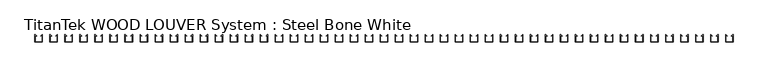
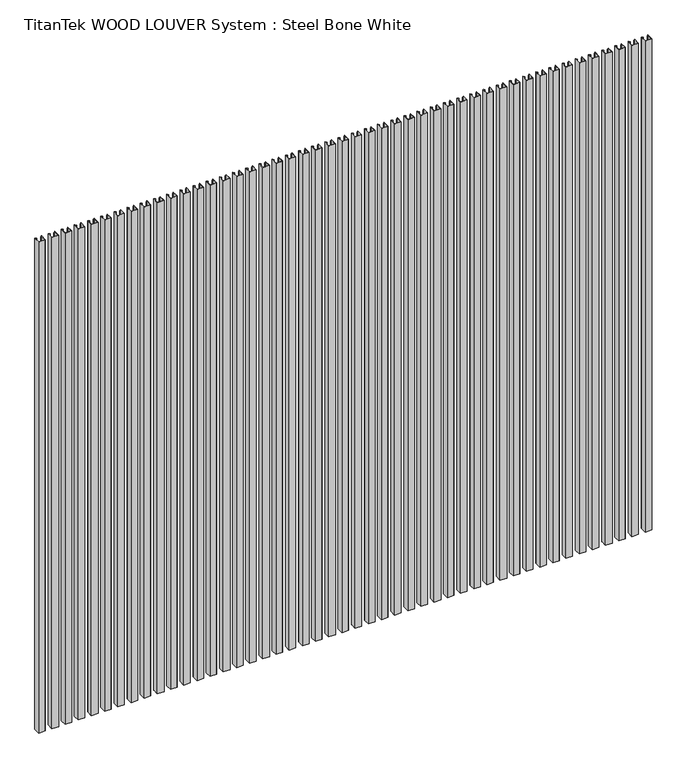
"""IFC4 building model written with IfcOpenShell, lengths in millimetres: proxy geometry, TitanTek WOOD LOUVER System : Steel Bone White."""

from ifc_helpers import new_model, si_unit, origin, origin_with_axes, place, context, project, spatial, polyline, outline, extrude, source, transform, mapped, element, save


def titantek_wood_louver_system_steel_bone_white_7c2ae0cb(model_context):
    return source(origin(), model_context, "Body", "SweptSolid", [
        extrude(outline(polyline([(4648.2, -50.8), (4648.2, 0.0), (4649.1921875, 0.0), (4659.1707019, -8.3729677), (4658.532936, -9.1330275), (4649.1921875, -1.2952088), (4649.1921875, -49.8078125), (4698.0078125, -49.8078125), (4698.0078125, -1.2952088), (4688.667064, -9.1330275), (4688.0292981, -8.3729677), (4698.0078125, 0.0), (4699.0, 0.0), (4699.0, -50.8), (4648.2, -50.8)])), origin_with_axes(), (0.0, 0.0, 1.0), 4000.0),
        extrude(outline(polyline([(4546.6, -50.8), (4546.6, 0.0), (4547.5921875, 0.0), (4557.5707019, -8.3729677), (4556.932936, -9.1330275), (4547.5921875, -1.2952088), (4547.5921875, -49.8078125), (4596.4078125, -49.8078125), (4596.4078125, -1.2952088), (4587.067064, -9.1330275), (4586.4292981, -8.3729677), (4596.4078125, 0.0), (4597.4, 0.0), (4597.4, -50.8), (4546.6, -50.8)])), origin_with_axes(), (0.0, 0.0, 1.0), 4000.0),
        extrude(outline(polyline([(4445.0, -50.8), (4445.0, 0.0), (4445.9921875, 0.0), (4455.9707019, -8.3729677), (4455.332936, -9.1330275), (4445.9921875, -1.2952088), (4445.9921875, -49.8078125), (4494.8078125, -49.8078125), (4494.8078125, -1.2952088), (4485.467064, -9.1330275), (4484.8292981, -8.3729677), (4494.8078125, 0.0), (4495.8, 0.0), (4495.8, -50.8), (4445.0, -50.8)])), origin_with_axes(), (0.0, 0.0, 1.0), 4000.0),
        extrude(outline(polyline([(4343.4, -50.8), (4343.4, 0.0), (4344.3921875, 0.0), (4354.3707019, -8.3729677), (4353.732936, -9.1330275), (4344.3921875, -1.2952088), (4344.3921875, -49.8078125), (4393.2078125, -49.8078125), (4393.2078125, -1.2952088), (4383.867064, -9.1330275), (4383.2292981, -8.3729677), (4393.2078125, 0.0), (4394.2, 0.0), (4394.2, -50.8), (4343.4, -50.8)])), origin_with_axes(), (0.0, 0.0, 1.0), 4000.0),
        extrude(outline(polyline([(4241.8, -50.8), (4241.8, 0.0), (4242.7921875, 0.0), (4252.7707019, -8.3729677), (4252.132936, -9.1330275), (4242.7921875, -1.2952088), (4242.7921875, -49.8078125), (4291.6078125, -49.8078125), (4291.6078125, -1.2952088), (4282.267064, -9.1330275), (4281.6292981, -8.3729677), (4291.6078125, 0.0), (4292.6, 0.0), (4292.6, -50.8), (4241.8, -50.8)])), origin_with_axes(), (0.0, 0.0, 1.0), 4000.0),
        extrude(outline(polyline([(4140.2, -50.8), (4140.2, 0.0), (4141.1921875, 0.0), (4151.1707019, -8.3729677), (4150.532936, -9.1330275), (4141.1921875, -1.2952088), (4141.1921875, -49.8078125), (4190.0078125, -49.8078125), (4190.0078125, -1.2952088), (4180.667064, -9.1330275), (4180.0292981, -8.3729677), (4190.0078125, 0.0), (4191.0, 0.0), (4191.0, -50.8), (4140.2, -50.8)])), origin_with_axes(), (0.0, 0.0, 1.0), 4000.0),
        extrude(outline(polyline([(4038.6, -50.8), (4038.6, 0.0), (4039.5921875, 0.0), (4049.5707019, -8.3729677), (4048.932936, -9.1330275), (4039.5921875, -1.2952088), (4039.5921875, -49.8078125), (4088.4078125, -49.8078125), (4088.4078125, -1.2952088), (4079.067064, -9.1330275), (4078.4292981, -8.3729677), (4088.4078125, 0.0), (4089.4, 0.0), (4089.4, -50.8), (4038.6, -50.8)])), origin_with_axes(), (0.0, 0.0, 1.0), 4000.0),
        extrude(outline(polyline([(3937.0, -50.8), (3937.0, 0.0), (3937.9921875, 0.0), (3947.9707019, -8.3729677), (3947.332936, -9.1330275), (3937.9921875, -1.2952088), (3937.9921875, -49.8078125), (3986.8078125, -49.8078125), (3986.8078125, -1.2952088), (3977.467064, -9.1330275), (3976.8292981, -8.3729677), (3986.8078125, 0.0), (3987.8, 0.0), (3987.8, -50.8), (3937.0, -50.8)])), origin_with_axes(), (0.0, 0.0, 1.0), 4000.0),
        extrude(outline(polyline([(3835.4, -50.8), (3835.4, 0.0), (3836.3921875, 0.0), (3846.3707019, -8.3729677), (3845.732936, -9.1330275), (3836.3921875, -1.2952088), (3836.3921875, -49.8078125), (3885.2078125, -49.8078125), (3885.2078125, -1.2952088), (3875.867064, -9.1330275), (3875.2292981, -8.3729677), (3885.2078125, 0.0), (3886.2, 0.0), (3886.2, -50.8), (3835.4, -50.8)])), origin_with_axes(), (0.0, 0.0, 1.0), 4000.0),
        extrude(outline(polyline([(3733.8, -50.8), (3733.8, 0.0), (3734.7921875, 0.0), (3744.7707019, -8.3729677), (3744.132936, -9.1330275), (3734.7921875, -1.2952088), (3734.7921875, -49.8078125), (3783.6078125, -49.8078125), (3783.6078125, -1.2952088), (3774.267064, -9.1330275), (3773.6292981, -8.3729677), (3783.6078125, 0.0), (3784.6, 0.0), (3784.6, -50.8), (3733.8, -50.8)])), origin_with_axes(), (0.0, 0.0, 1.0), 4000.0),
        extrude(outline(polyline([(3632.2, -50.8), (3632.2, 0.0), (3633.1921875, 0.0), (3643.1707019, -8.3729677), (3642.532936, -9.1330275), (3633.1921875, -1.2952088), (3633.1921875, -49.8078125), (3682.0078125, -49.8078125), (3682.0078125, -1.2952088), (3672.667064, -9.1330275), (3672.0292981, -8.3729677), (3682.0078125, 0.0), (3683.0, 0.0), (3683.0, -50.8), (3632.2, -50.8)])), origin_with_axes(), (0.0, 0.0, 1.0), 4000.0),
        extrude(outline(polyline([(3530.6, -50.8), (3530.6, 0.0), (3531.5921875, 0.0), (3541.5707019, -8.3729677), (3540.932936, -9.1330275), (3531.5921875, -1.2952088), (3531.5921875, -49.8078125), (3580.4078125, -49.8078125), (3580.4078125, -1.2952088), (3571.067064, -9.1330275), (3570.4292981, -8.3729677), (3580.4078125, 0.0), (3581.4, 0.0), (3581.4, -50.8), (3530.6, -50.8)])), origin_with_axes(), (0.0, 0.0, 1.0), 4000.0),
        extrude(outline(polyline([(3429.0, -50.8), (3429.0, 0.0), (3429.9921875, 0.0), (3439.9707019, -8.3729677), (3439.332936, -9.1330275), (3429.9921875, -1.2952088), (3429.9921875, -49.8078125), (3478.8078125, -49.8078125), (3478.8078125, -1.2952088), (3469.467064, -9.1330275), (3468.8292981, -8.3729677), (3478.8078125, 0.0), (3479.8, 0.0), (3479.8, -50.8), (3429.0, -50.8)])), origin_with_axes(), (0.0, 0.0, 1.0), 4000.0),
        extrude(outline(polyline([(3327.4, -50.8), (3327.4, 0.0), (3328.3921875, 0.0), (3338.3707019, -8.3729677), (3337.732936, -9.1330275), (3328.3921875, -1.2952088), (3328.3921875, -49.8078125), (3377.2078125, -49.8078125), (3377.2078125, -1.2952088), (3367.867064, -9.1330275), (3367.2292981, -8.3729677), (3377.2078125, 0.0), (3378.2, 0.0), (3378.2, -50.8), (3327.4, -50.8)])), origin_with_axes(), (0.0, 0.0, 1.0), 4000.0),
        extrude(outline(polyline([(3225.8, -50.8), (3225.8, 0.0), (3226.7921875, 0.0), (3236.7707019, -8.3729677), (3236.132936, -9.1330275), (3226.7921875, -1.2952088), (3226.7921875, -49.8078125), (3275.6078125, -49.8078125), (3275.6078125, -1.2952088), (3266.267064, -9.1330275), (3265.6292981, -8.3729677), (3275.6078125, 0.0), (3276.6, 0.0), (3276.6, -50.8), (3225.8, -50.8)])), origin_with_axes(), (0.0, 0.0, 1.0), 4000.0),
        extrude(outline(polyline([(3124.2, -50.8), (3124.2, 0.0), (3125.1921875, 0.0), (3135.1707019, -8.3729677), (3134.532936, -9.1330275), (3125.1921875, -1.2952088), (3125.1921875, -49.8078125), (3174.0078125, -49.8078125), (3174.0078125, -1.2952088), (3164.667064, -9.1330275), (3164.0292981, -8.3729677), (3174.0078125, 0.0), (3175.0, 0.0), (3175.0, -50.8), (3124.2, -50.8)])), origin_with_axes(), (0.0, 0.0, 1.0), 4000.0),
        extrude(outline(polyline([(3022.6, -50.8), (3022.6, 0.0), (3023.5921875, 0.0), (3033.5707019, -8.3729677), (3032.932936, -9.1330275), (3023.5921875, -1.2952088), (3023.5921875, -49.8078125), (3072.4078125, -49.8078125), (3072.4078125, -1.2952088), (3063.067064, -9.1330275), (3062.4292981, -8.3729677), (3072.4078125, 0.0), (3073.4, 0.0), (3073.4, -50.8), (3022.6, -50.8)])), origin_with_axes(), (0.0, 0.0, 1.0), 4000.0),
        extrude(outline(polyline([(2921.0, -50.8), (2921.0, 0.0), (2921.9921875, 0.0), (2931.9707019, -8.3729677), (2931.332936, -9.1330275), (2921.9921875, -1.2952088), (2921.9921875, -49.8078125), (2970.8078125, -49.8078125), (2970.8078125, -1.2952088), (2961.467064, -9.1330275), (2960.8292981, -8.3729677), (2970.8078125, 0.0), (2971.8, 0.0), (2971.8, -50.8), (2921.0, -50.8)])), origin_with_axes(), (0.0, 0.0, 1.0), 4000.0),
        extrude(outline(polyline([(2819.4, -50.8), (2819.4, 0.0), (2820.3921875, 0.0), (2830.3707019, -8.3729677), (2829.732936, -9.1330275), (2820.3921875, -1.2952088), (2820.3921875, -49.8078125), (2869.2078125, -49.8078125), (2869.2078125, -1.2952088), (2859.867064, -9.1330275), (2859.2292981, -8.3729677), (2869.2078125, 0.0), (2870.2, 0.0), (2870.2, -50.8), (2819.4, -50.8)])), origin_with_axes(), (0.0, 0.0, 1.0), 4000.0),
        extrude(outline(polyline([(2717.8, -50.8), (2717.8, 0.0), (2718.7921875, 0.0), (2728.7707019, -8.3729677), (2728.132936, -9.1330275), (2718.7921875, -1.2952088), (2718.7921875, -49.8078125), (2767.6078125, -49.8078125), (2767.6078125, -1.2952088), (2758.267064, -9.1330275), (2757.6292981, -8.3729677), (2767.6078125, 0.0), (2768.6, 0.0), (2768.6, -50.8), (2717.8, -50.8)])), origin_with_axes(), (0.0, 0.0, 1.0), 4000.0),
        extrude(outline(polyline([(2616.2, -50.8), (2616.2, 0.0), (2617.1921875, 0.0), (2627.1707019, -8.3729677), (2626.532936, -9.1330275), (2617.1921875, -1.2952088), (2617.1921875, -49.8078125), (2666.0078125, -49.8078125), (2666.0078125, -1.2952088), (2656.667064, -9.1330275), (2656.0292981, -8.3729677), (2666.0078125, 0.0), (2667.0, 0.0), (2667.0, -50.8), (2616.2, -50.8)])), origin_with_axes(), (0.0, 0.0, 1.0), 4000.0),
        extrude(outline(polyline([(2514.6, -50.8), (2514.6, 0.0), (2515.5921875, 0.0), (2525.5707019, -8.3729677), (2524.932936, -9.1330275), (2515.5921875, -1.2952088), (2515.5921875, -49.8078125), (2564.4078125, -49.8078125), (2564.4078125, -1.2952088), (2555.067064, -9.1330275), (2554.4292981, -8.3729677), (2564.4078125, 0.0), (2565.4, 0.0), (2565.4, -50.8), (2514.6, -50.8)])), origin_with_axes(), (0.0, 0.0, 1.0), 4000.0),
        extrude(outline(polyline([(2413.0, -50.8), (2413.0, 0.0), (2413.9921875, 0.0), (2423.9707019, -8.3729677), (2423.332936, -9.1330275), (2413.9921875, -1.2952088), (2413.9921875, -49.8078125), (2462.8078125, -49.8078125), (2462.8078125, -1.2952088), (2453.467064, -9.1330275), (2452.8292981, -8.3729677), (2462.8078125, 0.0), (2463.8, 0.0), (2463.8, -50.8), (2413.0, -50.8)])), origin_with_axes(), (0.0, 0.0, 1.0), 4000.0),
        extrude(outline(polyline([(2311.4, -50.8), (2311.4, 0.0), (2312.3921875, 0.0), (2322.3707019, -8.3729677), (2321.732936, -9.1330275), (2312.3921875, -1.2952088), (2312.3921875, -49.8078125), (2361.2078125, -49.8078125), (2361.2078125, -1.2952088), (2351.867064, -9.1330275), (2351.2292981, -8.3729677), (2361.2078125, 0.0), (2362.2, 0.0), (2362.2, -50.8), (2311.4, -50.8)])), origin_with_axes(), (0.0, 0.0, 1.0), 4000.0),
        extrude(outline(polyline([(2209.8, -50.8), (2209.8, 0.0), (2210.7921875, 0.0), (2220.7707019, -8.3729677), (2220.132936, -9.1330275), (2210.7921875, -1.2952088), (2210.7921875, -49.8078125), (2259.6078125, -49.8078125), (2259.6078125, -1.2952088), (2250.267064, -9.1330275), (2249.6292981, -8.3729677), (2259.6078125, 0.0), (2260.6, 0.0), (2260.6, -50.8), (2209.8, -50.8)])), origin_with_axes(), (0.0, 0.0, 1.0), 4000.0),
        extrude(outline(polyline([(2108.2, -50.8), (2108.2, 0.0), (2109.1921875, 0.0), (2119.1707019, -8.3729677), (2118.532936, -9.1330275), (2109.1921875, -1.2952088), (2109.1921875, -49.8078125), (2158.0078125, -49.8078125), (2158.0078125, -1.2952088), (2148.667064, -9.1330275), (2148.0292981, -8.3729677), (2158.0078125, 0.0), (2159.0, 0.0), (2159.0, -50.8), (2108.2, -50.8)])), origin_with_axes(), (0.0, 0.0, 1.0), 4000.0),
        extrude(outline(polyline([(2006.6, -50.8), (2006.6, 0.0), (2007.5921875, 0.0), (2017.5707019, -8.3729677), (2016.932936, -9.1330275), (2007.5921875, -1.2952088), (2007.5921875, -49.8078125), (2056.4078125, -49.8078125), (2056.4078125, -1.2952088), (2047.067064, -9.1330275), (2046.4292981, -8.3729677), (2056.4078125, 0.0), (2057.4, 0.0), (2057.4, -50.8), (2006.6, -50.8)])), origin_with_axes(), (0.0, 0.0, 1.0), 4000.0),
        extrude(outline(polyline([(1905.0, -50.8), (1905.0, 0.0), (1905.9921875, 0.0), (1915.9707019, -8.3729677), (1915.332936, -9.1330275), (1905.9921875, -1.2952088), (1905.9921875, -49.8078125), (1954.8078125, -49.8078125), (1954.8078125, -1.2952088), (1945.467064, -9.1330275), (1944.8292981, -8.3729677), (1954.8078125, 0.0), (1955.8, 0.0), (1955.8, -50.8), (1905.0, -50.8)])), origin_with_axes(), (0.0, 0.0, 1.0), 4000.0),
        extrude(outline(polyline([(1803.4, -50.8), (1803.4, 0.0), (1804.3921875, 0.0), (1814.3707019, -8.3729677), (1813.732936, -9.1330275), (1804.3921875, -1.2952088), (1804.3921875, -49.8078125), (1853.2078125, -49.8078125), (1853.2078125, -1.2952088), (1843.867064, -9.1330275), (1843.2292981, -8.3729677), (1853.2078125, 0.0), (1854.2, 0.0), (1854.2, -50.8), (1803.4, -50.8)])), origin_with_axes(), (0.0, 0.0, 1.0), 4000.0),
        extrude(outline(polyline([(1701.8, -50.8), (1701.8, 0.0), (1702.7921875, 0.0), (1712.7707019, -8.3729677), (1712.132936, -9.1330275), (1702.7921875, -1.2952088), (1702.7921875, -49.8078125), (1751.6078125, -49.8078125), (1751.6078125, -1.2952088), (1742.267064, -9.1330275), (1741.6292981, -8.3729677), (1751.6078125, 0.0), (1752.6, 0.0), (1752.6, -50.8), (1701.8, -50.8)])), origin_with_axes(), (0.0, 0.0, 1.0), 4000.0),
        extrude(outline(polyline([(1600.2, -50.8), (1600.2, 0.0), (1601.1921875, 0.0), (1611.1707019, -8.3729677), (1610.532936, -9.1330275), (1601.1921875, -1.2952088), (1601.1921875, -49.8078125), (1650.0078125, -49.8078125), (1650.0078125, -1.2952088), (1640.667064, -9.1330275), (1640.0292981, -8.3729677), (1650.0078125, 0.0), (1651.0, 0.0), (1651.0, -50.8), (1600.2, -50.8)])), origin_with_axes(), (0.0, 0.0, 1.0), 4000.0),
        extrude(outline(polyline([(1498.6, -50.8), (1498.6, 0.0), (1499.5921875, 0.0), (1509.5707019, -8.3729677), (1508.932936, -9.1330275), (1499.5921875, -1.2952088), (1499.5921875, -49.8078125), (1548.4078125, -49.8078125), (1548.4078125, -1.2952088), (1539.067064, -9.1330275), (1538.4292981, -8.3729677), (1548.4078125, 0.0), (1549.4, 0.0), (1549.4, -50.8), (1498.6, -50.8)])), origin_with_axes(), (0.0, 0.0, 1.0), 4000.0),
        extrude(outline(polyline([(1397.0, -50.8), (1397.0, 0.0), (1397.9921875, 0.0), (1407.9707019, -8.3729677), (1407.332936, -9.1330275), (1397.9921875, -1.2952088), (1397.9921875, -49.8078125), (1446.8078125, -49.8078125), (1446.8078125, -1.2952088), (1437.467064, -9.1330275), (1436.8292981, -8.3729677), (1446.8078125, 0.0), (1447.8, 0.0), (1447.8, -50.8), (1397.0, -50.8)])), origin_with_axes(), (0.0, 0.0, 1.0), 4000.0),
        extrude(outline(polyline([(1295.4, -50.8), (1295.4, 0.0), (1296.3921875, 0.0), (1306.3707019, -8.3729677), (1305.732936, -9.1330275), (1296.3921875, -1.2952088), (1296.3921875, -49.8078125), (1345.2078125, -49.8078125), (1345.2078125, -1.2952088), (1335.867064, -9.1330275), (1335.2292981, -8.3729677), (1345.2078125, 0.0), (1346.2, 0.0), (1346.2, -50.8), (1295.4, -50.8)])), origin_with_axes(), (0.0, 0.0, 1.0), 4000.0),
        extrude(outline(polyline([(1193.8, -50.8), (1193.8, 0.0), (1194.7921875, 0.0), (1204.7707019, -8.3729677), (1204.132936, -9.1330275), (1194.7921875, -1.2952088), (1194.7921875, -49.8078125), (1243.6078125, -49.8078125), (1243.6078125, -1.2952088), (1234.267064, -9.1330275), (1233.6292981, -8.3729677), (1243.6078125, 0.0), (1244.6, 0.0), (1244.6, -50.8), (1193.8, -50.8)])), origin_with_axes(), (0.0, 0.0, 1.0), 4000.0),
        extrude(outline(polyline([(1092.2, -50.8), (1092.2, 0.0), (1093.1921875, 0.0), (1103.1707019, -8.3729677), (1102.532936, -9.1330275), (1093.1921875, -1.2952088), (1093.1921875, -49.8078125), (1142.0078125, -49.8078125), (1142.0078125, -1.2952088), (1132.667064, -9.1330275), (1132.0292981, -8.3729677), (1142.0078125, 0.0), (1143.0, 0.0), (1143.0, -50.8), (1092.2, -50.8)])), origin_with_axes(), (0.0, 0.0, 1.0), 4000.0),
        extrude(outline(polyline([(990.6, -50.8), (990.6, 0.0), (991.5921875, 0.0), (1001.5707019, -8.3729677), (1000.932936, -9.1330275), (991.5921875, -1.2952088), (991.5921875, -49.8078125), (1040.4078125, -49.8078125), (1040.4078125, -1.2952088), (1031.067064, -9.1330275), (1030.4292981, -8.3729677), (1040.4078125, 0.0), (1041.4, 0.0), (1041.4, -50.8), (990.6, -50.8)])), origin_with_axes(), (0.0, 0.0, 1.0), 4000.0),
        extrude(outline(polyline([(889.0, -50.8), (889.0, 0.0), (889.9921875, 0.0), (899.9707019, -8.3729677), (899.332936, -9.1330275), (889.9921875, -1.2952088), (889.9921875, -49.8078125), (938.8078125, -49.8078125), (938.8078125, -1.2952088), (929.467064, -9.1330275), (928.8292981, -8.3729677), (938.8078125, 0.0), (939.8, 0.0), (939.8, -50.8), (889.0, -50.8)])), origin_with_axes(), (0.0, 0.0, 1.0), 4000.0),
        extrude(outline(polyline([(787.4, -50.8), (787.4, 0.0), (788.3921875, 0.0), (798.3707019, -8.3729677), (797.732936, -9.1330275), (788.3921875, -1.2952088), (788.3921875, -49.8078125), (837.2078125, -49.8078125), (837.2078125, -1.2952088), (827.867064, -9.1330275), (827.2292981, -8.3729677), (837.2078125, 0.0), (838.2, 0.0), (838.2, -50.8), (787.4, -50.8)])), origin_with_axes(), (0.0, 0.0, 1.0), 4000.0),
        extrude(outline(polyline([(685.8, -50.8), (685.8, 0.0), (686.7921875, 0.0), (696.7707019, -8.3729677), (696.132936, -9.1330275), (686.7921875, -1.2952088), (686.7921875, -49.8078125), (735.6078125, -49.8078125), (735.6078125, -1.2952088), (726.267064, -9.1330275), (725.6292981, -8.3729677), (735.6078125, 0.0), (736.6, 0.0), (736.6, -50.8), (685.8, -50.8)])), origin_with_axes(), (0.0, 0.0, 1.0), 4000.0),
        extrude(outline(polyline([(584.2, -50.8), (584.2, 0.0), (585.1921875, 0.0), (595.1707019, -8.3729677), (594.532936, -9.1330275), (585.1921875, -1.2952088), (585.1921875, -49.8078125), (634.0078125, -49.8078125), (634.0078125, -1.2952088), (624.667064, -9.1330275), (624.0292981, -8.3729677), (634.0078125, 0.0), (635.0, 0.0), (635.0, -50.8), (584.2, -50.8)])), origin_with_axes(), (0.0, 0.0, 1.0), 4000.0),
        extrude(outline(polyline([(482.6, -50.8), (482.6, 0.0), (483.5921875, 0.0), (493.5707019, -8.3729677), (492.932936, -9.1330275), (483.5921875, -1.2952088), (483.5921875, -49.8078125), (532.4078125, -49.8078125), (532.4078125, -1.2952088), (523.067064, -9.1330275), (522.4292981, -8.3729677), (532.4078125, 0.0), (533.4, 0.0), (533.4, -50.8), (482.6, -50.8)])), origin_with_axes(), (0.0, 0.0, 1.0), 4000.0),
        extrude(outline(polyline([(381.0, -50.8), (381.0, 0.0), (381.9921875, 0.0), (391.9707019, -8.3729677), (391.332936, -9.1330275), (381.9921875, -1.2952088), (381.9921875, -49.8078125), (430.8078125, -49.8078125), (430.8078125, -1.2952088), (421.467064, -9.1330275), (420.8292981, -8.3729677), (430.8078125, 0.0), (431.8, 0.0), (431.8, -50.8), (381.0, -50.8)])), origin_with_axes(), (0.0, 0.0, 1.0), 4000.0),
        extrude(outline(polyline([(279.4, -50.8), (279.4, 0.0), (280.3921875, 0.0), (290.3707019, -8.3729677), (289.732936, -9.1330275), (280.3921875, -1.2952088), (280.3921875, -49.8078125), (329.2078125, -49.8078125), (329.2078125, -1.2952088), (319.867064, -9.1330275), (319.2292981, -8.3729677), (329.2078125, 0.0), (330.2, 0.0), (330.2, -50.8), (279.4, -50.8)])), origin_with_axes(), (0.0, 0.0, 1.0), 4000.0),
        extrude(outline(polyline([(177.8, -50.8), (177.8, 0.0), (178.7921875, 0.0), (188.7707019, -8.3729677), (188.132936, -9.1330275), (178.7921875, -1.2952088), (178.7921875, -49.8078125), (227.6078125, -49.8078125), (227.6078125, -1.2952088), (218.267064, -9.1330275), (217.6292981, -8.3729677), (227.6078125, 0.0), (228.6, 0.0), (228.6, -50.8), (177.8, -50.8)])), origin_with_axes(), (0.0, 0.0, 1.0), 4000.0),
        extrude(outline(polyline([(76.2, -50.8), (76.2, 0.0), (77.1921875, 0.0), (87.1707019, -8.3729677), (86.532936, -9.1330275), (77.1921875, -1.2952088), (77.1921875, -49.8078125), (126.0078125, -49.8078125), (126.0078125, -1.2952088), (116.667064, -9.1330275), (116.0292981, -8.3729677), (126.0078125, 0.0), (127.0, 0.0), (127.0, -50.8), (76.2, -50.8)])), origin_with_axes(), (0.0, 0.0, 1.0), 4000.0),
        extrude(outline(polyline([(-25.4, -50.8), (-25.4, 0.0), (-24.4078125, 0.0), (-14.4292981, -8.3729677), (-15.067064, -9.1330275), (-24.4078125, -1.2952088), (-24.4078125, -49.8078125), (24.4078125, -49.8078125), (24.4078125, -1.2952088), (15.067064, -9.1330275), (14.4292981, -8.3729677), (24.4078125, 0.0), (25.4, 0.0), (25.4, -50.8), (-25.4, -50.8)])), origin_with_axes(), (0.0, 0.0, 1.0), 4000.0),
    ])


if __name__ == "__main__":
    model = new_model("IFC4")
    model_context = context("Model", 3, world=origin())
    ifc_project = project(units=[si_unit("LENGTHUNIT", "METRE", prefix="MILLI")], contexts=[model_context])
    site = spatial("IfcSite", under=ifc_project)
    building = spatial("IfcBuilding", under=site)
    placement = place(None, origin())
    titantek_wood_louver_system_steel_bone_white_shape = titantek_wood_louver_system_steel_bone_white_7c2ae0cb(model_context)
    element("IfcBuildingElementProxy", 1, Name="TitanTek WOOD LOUVER System : Steel Bone White", ObjectType="TitanTek WOOD LOUVER System : Steel Bone White", at=placement, inside=building, context=model_context, shape_type="MappedRepresentation", body=[
        mapped(titantek_wood_louver_system_steel_bone_white_shape, transform((0.0, 0.0, 0.0), x_axis=(1.0, 0.0, 0.0), y_axis=(0.0, 1.0, 0.0), z_axis=(0.0, 0.0, 1.0))),
    ])
    save(model, "model.ifc")
